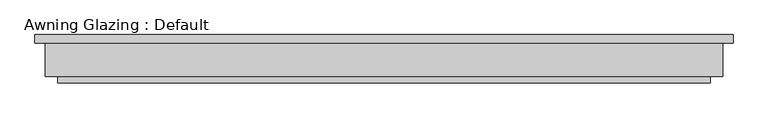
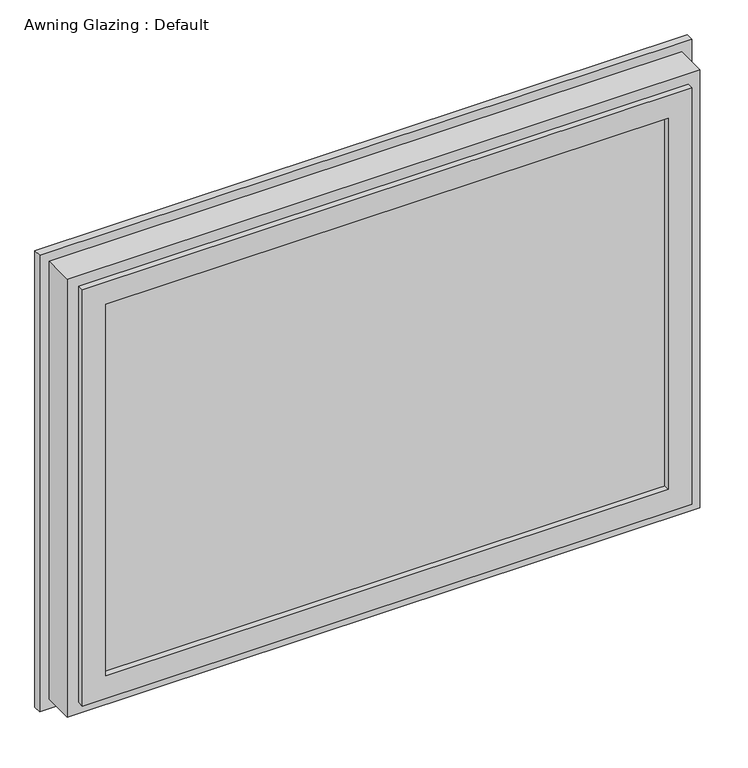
"""IFC4 building model written with IfcOpenShell, lengths in millimetres: proxy geometry, Awning Glazing : Default."""

from ifc_helpers import new_model, si_unit, frame, origin, place, context, project, spatial, polyline, outline, extrude, faceted_brep, source, transform, mapped, element, save


def awning_glazing_default_ca3b899a(model_context):
    return source(origin(), model_context, "Body", "SolidModel", [
        extrude(outline(polyline([(-533.4, -64.29375), (533.4, -64.29375), (533.4, -69.85), (-533.4, -69.85), (-533.4, -64.29375)])), frame((0.0, 0.0, 838.2), z_axis=(0.0, 0.0, 1.0), x_axis=(1.0, 0.0, 0.0)), (0.0, 0.0, 1.0), 762.0),
        extrude(outline(polyline([(-533.4, -41.275), (533.4, -41.275), (533.4, -46.83125), (-533.4, -46.83125), (-533.4, -41.275)])), frame((0.0, 0.0, 838.2), z_axis=(0.0, 0.0, 1.0), x_axis=(1.0, 0.0, 0.0)), (0.0, 0.0, 1.0), 762.0),
        faceted_brep([(-503.2375, -41.275, 868.3625), (503.2375, -41.275, 868.3625), (508.0, 0.0, 863.6), (-508.0, 0.0, 863.6), (-533.4, -20.6375, 838.2), (533.4, -20.6375, 838.2), (509.5875, -41.275, 862.0125), (-509.5875, -41.275, 862.0125), (-533.4, -1.5875, 838.2), (533.4, -1.5875, 838.2), (-542.925, 0.0, 828.675), (542.925, 0.0, 828.675), (542.925, -1.5875, 828.675), (-542.925, -1.5875, 828.675), (503.2375, -41.275, 1570.0375), (508.0, 0.0, 1574.8), (533.4, -20.6375, 1600.2), (509.5875, -41.275, 1576.3875), (533.4, -1.5875, 1600.2), (542.925, 0.0, 1609.725), (542.925, -1.5875, 1609.725), (-503.2375, -41.275, 1570.0375), (-508.0, 0.0, 1574.8), (-533.4, -20.6375, 1600.2), (-509.5875, -41.275, 1576.3875), (-533.4, -1.5875, 1600.2), (-542.925, 0.0, 1609.725), (-542.925, -1.5875, 1609.725)], [[[0, 1, 2, 3]], [[4, 5, 6, 7]], [[8, 9, 5, 4]], [[10, 11, 12, 13]], [[1, 14, 15, 2]], [[5, 16, 17, 6]], [[9, 18, 16, 5]], [[11, 19, 20, 12]], [[14, 21, 22, 15]], [[16, 23, 24, 17]], [[18, 25, 23, 16]], [[19, 26, 27, 20]], [[21, 0, 3, 22]], [[7, 6, 17, 24], [1, 0, 21, 14]], [[23, 4, 7, 24]], [[25, 8, 4, 23]], [[13, 12, 20, 27], [9, 8, 25, 18]], [[26, 10, 13, 27]], [[11, 10, 26, 19], [3, 2, 15, 22]]]),
        faceted_brep([(-542.925, -14.2875, 828.675), (542.925, -14.2875, 828.675), (542.925, 0.0, 828.675), (-542.925, 0.0, 828.675), (-533.4, -69.85, 838.2), (533.4, -69.85, 838.2), (533.4, -14.2875, 838.2), (-533.4, -14.2875, 838.2), (-504.825, -80.9625, 866.775), (504.825, -80.9625, 866.775), (504.825, -69.85, 866.775), (-504.825, -69.85, 866.775), (-547.6875, -69.85, 823.9125), (547.6875, -69.85, 823.9125), (547.6875, -80.9625, 823.9125), (-547.6875, -80.9625, 823.9125), (-568.325, -14.2875, 803.275), (568.325, -14.2875, 803.275), (568.325, -69.85, 803.275), (-568.325, -69.85, 803.275), (-585.7875, 0.0, 785.8125), (585.7875, 0.0, 785.8125), (585.7875, -14.2875, 785.8125), (-585.7875, -14.2875, 785.8125), (542.925, -14.2875, 1609.725), (542.925, 0.0, 1609.725), (533.4, -69.85, 1600.2), (533.4, -14.2875, 1600.2), (504.825, -80.9625, 1571.625), (504.825, -69.85, 1571.625), (547.6875, -69.85, 1614.4875), (547.6875, -80.9625, 1614.4875), (568.325, -14.2875, 1635.125), (568.325, -69.85, 1635.125), (585.7875, 0.0, 1652.5875), (585.7875, -14.2875, 1652.5875), (-542.925, -14.2875, 1609.725), (-542.925, 0.0, 1609.725), (-533.4, -69.85, 1600.2), (-533.4, -14.2875, 1600.2), (-504.825, -80.9625, 1571.625), (-504.825, -69.85, 1571.625), (-547.6875, -69.85, 1614.4875), (-547.6875, -80.9625, 1614.4875), (-568.325, -14.2875, 1635.125), (-568.325, -69.85, 1635.125), (-585.7875, 0.0, 1652.5875), (-585.7875, -14.2875, 1652.5875)], [[[0, 1, 2, 3]], [[4, 5, 6, 7]], [[8, 9, 10, 11]], [[12, 13, 14, 15]], [[16, 17, 18, 19]], [[20, 21, 22, 23]], [[1, 24, 25, 2]], [[5, 26, 27, 6]], [[9, 28, 29, 10]], [[13, 30, 31, 14]], [[17, 32, 33, 18]], [[21, 34, 35, 22]], [[24, 36, 37, 25]], [[26, 38, 39, 27]], [[28, 40, 41, 29]], [[30, 42, 43, 31]], [[32, 44, 45, 33]], [[34, 46, 47, 35]], [[36, 0, 3, 37]], [[1, 0, 36, 24], [7, 6, 27, 39]], [[38, 4, 7, 39]], [[5, 4, 38, 26], [11, 10, 29, 41]], [[40, 8, 11, 41]], [[15, 14, 31, 43], [9, 8, 40, 28]], [[42, 12, 15, 43]], [[19, 18, 33, 45], [13, 12, 42, 30]], [[44, 16, 19, 45]], [[23, 22, 35, 47], [17, 16, 44, 32]], [[46, 20, 23, 47]], [[21, 20, 46, 34], [3, 2, 25, 37]]]),
    ])


if __name__ == "__main__":
    model = new_model("IFC4")
    model_context = context("Model", 3, world=origin())
    ifc_project = project(units=[si_unit("LENGTHUNIT", "METRE", prefix="MILLI")], contexts=[model_context])
    site = spatial("IfcSite", under=ifc_project)
    building = spatial("IfcBuilding", under=site)
    placement = place(None, origin())
    awning_glazing_default_shape = awning_glazing_default_ca3b899a(model_context)
    element("IfcBuildingElementProxy", 1, Name="Awning Glazing : Default", ObjectType="Awning Glazing : Default", at=placement, inside=building, context=model_context, shape_type="MappedRepresentation", body=[
        mapped(awning_glazing_default_shape, transform((0.0, 0.0, 0.0), x_axis=(1.0, 0.0, 0.0), y_axis=(0.0, 1.0, 0.0), z_axis=(0.0, 0.0, 1.0))),
    ])
    save(model, "model.ifc")
